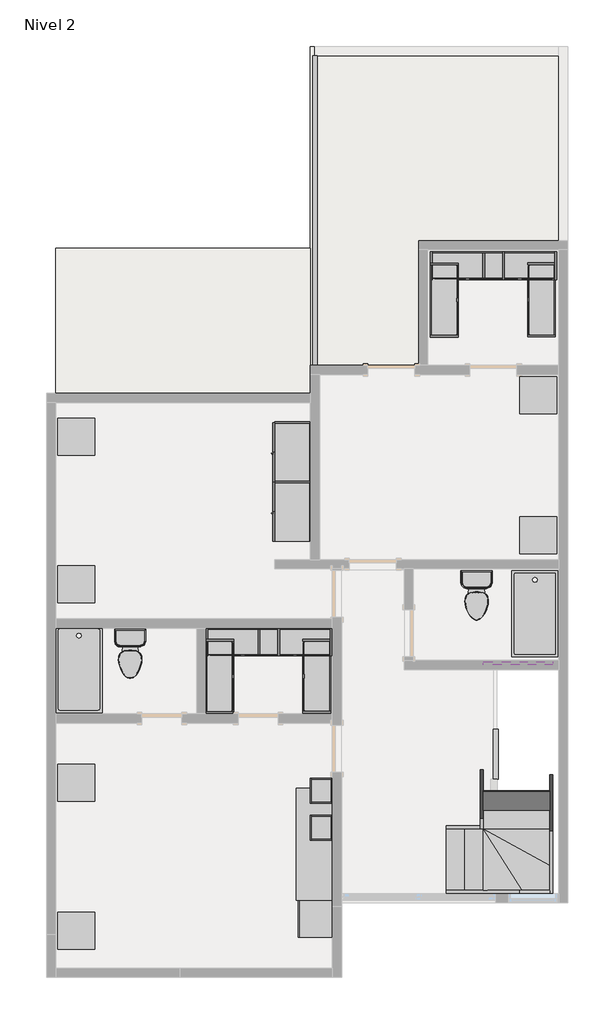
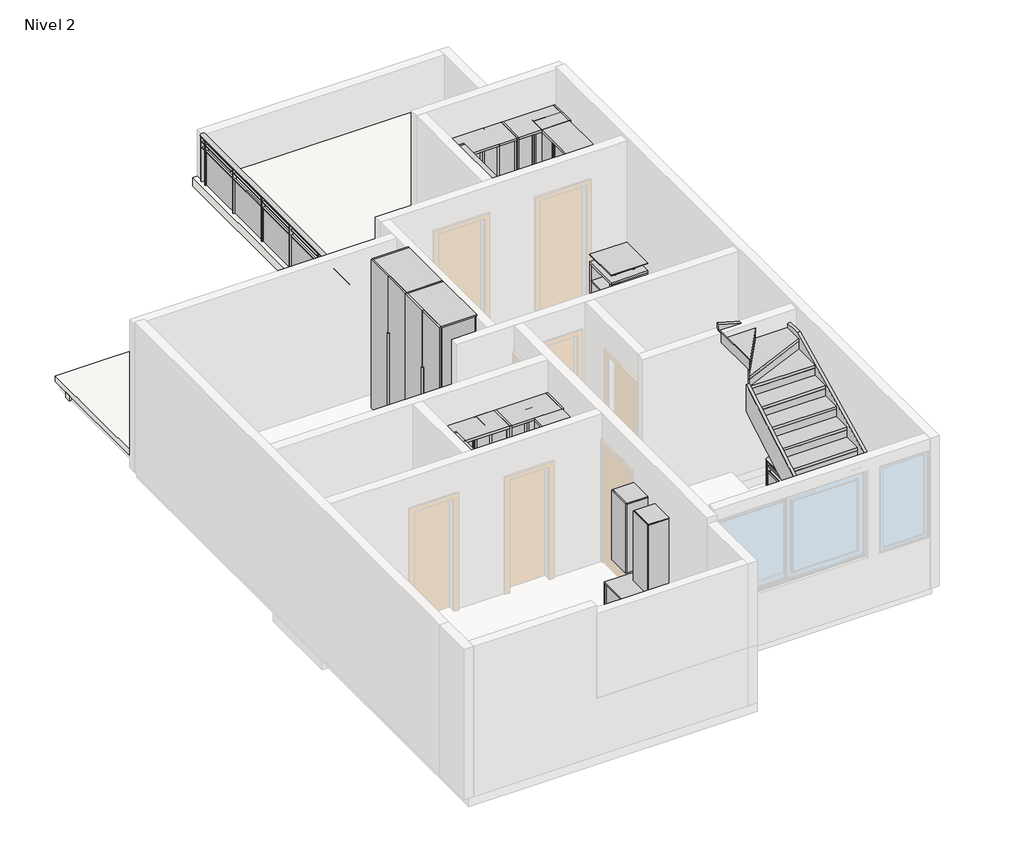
# One storey, part 2 of 2: 17 furniture elements, 10 slabs, 5 members, 4 flow terminals, 2 railings, 1 stair flight.
"""IFC4 building model written with IfcOpenShell, lengths in millimetres."""

from ifc_helpers import new_model, si_unit, point, frame, origin, place, context, project, spatial, polyline, ellipse_curve, trimmed, outline, extrude, transform, mapped, element, save
from ifc_brep_helpers import plane_surface, extruded_surface, advanced_brep
from components import flow_terminal_75_x_1_4_3fb2c740, ada_tank_toilet_4266_toilet_domestic_3d_e97a8d24, ada_tank_toilet_4266_toilet_domestic_3d_4660e8f3, furniture_89622b55, furniture_73a381e0, furniture_1200mm_x_450mm_012c86cd, bed_table_10474_bed_table_10474_d9c024c5, textiles_6b36da33, stair_flight_df50b853

model = new_model("IFC4")

# Units and contexts
model_context = context("Model", 3, world=origin())
ifc_project = project(units=[si_unit("LENGTHUNIT", "METRE", prefix="MILLI")], contexts=[model_context])

# Site, building, storey
site = spatial("IfcSite", under=ifc_project)
building = spatial("IfcBuilding", under=site)
storey = spatial("IfcBuildingStorey", under=building, Name="Nivel 2", Elevation=2800.0)

# Flow terminals
placement = place(None, origin())
flow_terminal_75_x_1_4_shape = flow_terminal_75_x_1_4_3fb2c740(model_context)
element("IfcFlowTerminal", 1, ObjectType="Cubeta de ducha - Desagüe axial : .75 x 1.4", at=placement, inside=storey, context=model_context, shape_type="MappedRepresentation", body=[
    mapped(flow_terminal_75_x_1_4_shape, transform((-9370.5352198, 3050.2742772, 2800.0), x_axis=(-1.0, 0.0, 0.0), y_axis=(0.0, -1.0, 0.0), z_axis=(0.0, 0.0, 1.0))),
])
element("IfcFlowTerminal", 2, ObjectType="Cubeta de ducha - Desagüe axial : .75 x 1.4", at=placement, inside=storey, context=model_context, shape_type="MappedRepresentation", body=[
    mapped(flow_terminal_75_x_1_4_shape, transform((-1982.5352198, 3954.2742772, 2800.0), x_axis=(-1.0, 0.0, 0.0), y_axis=(0.0, -1.0, 0.0), z_axis=(0.0, 0.0, 1.0))),
])
ada_tank_toilet_4266_toilet_domestic_3d_shape = ada_tank_toilet_4266_toilet_domestic_3d_e97a8d24(model_context)
ada_tank_toilet_4266_toilet_domestic_3d_2_shape = ada_tank_toilet_4266_toilet_domestic_3d_4660e8f3(model_context)
element("IfcFlowTerminal", 3, ObjectType="ADA_Tank_Toilet_4266 : Toilet-Domestic-3D", at=placement, inside=storey, context=model_context, shape_type="MappedRepresentation", body=[
    mapped(ada_tank_toilet_4266_toilet_domestic_3d_shape, transform((-8539.2438577, 3211.2742772, 2800.0), x_axis=(-1.0, 0.0, 0.0), y_axis=(0.0, -1.0, 0.0), z_axis=(0.0, 0.0, 1.0))),
    mapped(ada_tank_toilet_4266_toilet_domestic_3d_2_shape, transform((-8539.2438577, 3211.2742772, 2800.0), x_axis=(-1.0, 0.0, 0.0), y_axis=(0.0, -1.0, 0.0), z_axis=(0.0, 0.0, 1.0))),
])
element("IfcFlowTerminal", 4, ObjectType="ADA_Tank_Toilet_4266 : Toilet-Domestic-3D", at=placement, inside=storey, context=model_context, shape_type="MappedRepresentation", body=[
    mapped(ada_tank_toilet_4266_toilet_domestic_3d_shape, transform((-2925.1391925, 4157.4420217, 2800.0), x_axis=(-1.0, 0.0, 0.0), y_axis=(0.0, -1.0, 0.0), z_axis=(0.0, 0.0, 1.0))),
    mapped(ada_tank_toilet_4266_toilet_domestic_3d_2_shape, transform((-2925.1391925, 4157.4420217, 2800.0), x_axis=(-1.0, 0.0, 0.0), y_axis=(0.0, -1.0, 0.0), z_axis=(0.0, 0.0, 1.0))),
])

# Furniture
furniture_shape = furniture_89622b55(model_context)
element("IfcFurniture", 5, ObjectType="T70 - 100%- ARMADIO UNDERLINE L2923  : T70 - 100%- ARMADIO UNDERLINE L2923 ", at=placement, inside=storey, context=model_context, shape_type="MappedRepresentation", body=[
    mapped(furniture_shape, transform((-5904.0646571, 6810.3025695, 2800.0), x_axis=(0.0, -1.0, 0.0), y_axis=(1.0, 0.0, 0.0), z_axis=(0.0, 0.0, 1.0))),
])
furniture_2_shape = furniture_73a381e0(model_context)
element("IfcFurniture", 6, ObjectType="T70 - THESIS-Composizione 5 : T70 - THESIS-Composizione 5", at=placement, inside=storey, context=model_context, shape_type="MappedRepresentation", body=[
    mapped(furniture_2_shape, transform((-5264.5352198, 470.2742772, 2800.0), x_axis=(0.0, -1.0, 0.0), y_axis=(1.0, 0.0, 0.0), z_axis=(0.0, 0.0, 1.0))),
])
furniture_1200mm_x_450mm_shape = furniture_1200mm_x_450mm_012c86cd(model_context)
element("IfcFurniture", 7, ObjectType="Armoire monobloc Ã\xa0 rideaux : 1200mm x 450mm", at=placement, inside=storey, context=model_context, shape_type="MappedRepresentation", body=[
    mapped(furniture_1200mm_x_450mm_shape, transform((-5967.5352198, 3445.2742772, 2800.0), x_axis=(1.0, 0.0, 0.0), y_axis=(0.0, 1.0, 0.0), z_axis=(0.0, 0.0, 1.0))),
])
element("IfcFurniture", 8, ObjectType="Armoire monobloc Ã\xa0 rideaux : 1200mm x 450mm", at=placement, inside=storey, context=model_context, shape_type="MappedRepresentation", body=[
    mapped(furniture_1200mm_x_450mm_shape, transform((-5566.5352198, 3041.2742772, 2800.0), x_axis=(0.0, -1.0, 0.0), y_axis=(1.0, 0.0, 0.0), z_axis=(0.0, 0.0, 1.0))),
])
element("IfcFurniture", 9, ObjectType="Armoire monobloc Ã\xa0 rideaux : 1200mm x 450mm", at=placement, inside=storey, context=model_context, shape_type="MappedRepresentation", body=[
    mapped(furniture_1200mm_x_450mm_shape, transform((-7039.5352198, 2837.8939449, 2800.0), x_axis=(0.0, 1.0, 0.0), y_axis=(-1.0, 0.0, 0.0), z_axis=(0.0, 0.0, 1.0))),
])
element("IfcFurniture", 10, ObjectType="Armoire monobloc Ã\xa0 rideaux : 1200mm x 450mm", at=placement, inside=storey, context=model_context, shape_type="MappedRepresentation", body=[
    mapped(furniture_1200mm_x_450mm_shape, transform((-6814.5352198, 3445.2742772, 2800.0), x_axis=(1.0, 0.0, 0.0), y_axis=(0.0, 1.0, 0.0), z_axis=(0.0, 0.0, 1.0))),
])
element("IfcFurniture", 11, ObjectType="Armoire monobloc Ã\xa0 rideaux : 1200mm x 450mm", at=placement, inside=storey, context=model_context, shape_type="MappedRepresentation", body=[
    mapped(furniture_1200mm_x_450mm_shape, transform((-2326.5352198, 9544.6804136, 2800.0), x_axis=(1.0, 0.0, 0.0), y_axis=(0.0, 1.0, 0.0), z_axis=(0.0, 0.0, 1.0))),
])
element("IfcFurniture", 12, ObjectType="Armoire monobloc Ã\xa0 rideaux : 1200mm x 450mm", at=placement, inside=storey, context=model_context, shape_type="MappedRepresentation", body=[
    mapped(furniture_1200mm_x_450mm_shape, transform((-1925.5352198, 9140.6804136, 2800.0), x_axis=(0.0, -1.0, 0.0), y_axis=(1.0, 0.0, 0.0), z_axis=(0.0, 0.0, 1.0))),
])
element("IfcFurniture", 13, ObjectType="Armoire monobloc Ã\xa0 rideaux : 1200mm x 450mm", at=placement, inside=storey, context=model_context, shape_type="MappedRepresentation", body=[
    mapped(furniture_1200mm_x_450mm_shape, transform((-3398.5352198, 8937.3000814, 2800.0), x_axis=(0.0, 1.0, 0.0), y_axis=(-1.0, 0.0, 0.0), z_axis=(0.0, 0.0, 1.0))),
])
element("IfcFurniture", 14, ObjectType="Armoire monobloc Ã\xa0 rideaux : 1200mm x 450mm", at=placement, inside=storey, context=model_context, shape_type="MappedRepresentation", body=[
    mapped(furniture_1200mm_x_450mm_shape, transform((-3173.5352198, 9544.6804136, 2800.0), x_axis=(1.0, 0.0, 0.0), y_axis=(0.0, 1.0, 0.0), z_axis=(0.0, 0.0, 1.0))),
])
bed_table_10474_bed_table_10474_shape = bed_table_10474_bed_table_10474_d9c024c5(model_context)
element("IfcFurniture", 15, ObjectType="Bed_Table_10474 : Bed_Table_10474", at=placement, inside=storey, context=model_context, shape_type="MappedRepresentation", body=[
    mapped(bed_table_10474_bed_table_10474_shape, transform((-9414.5352198, 1214.2742772, 2800.0), x_axis=(0.0, 1.0, 0.0), y_axis=(-1.0, 0.0, 0.0), z_axis=(0.0, 0.0, 1.0))),
])
element("IfcFurniture", 16, ObjectType="Bed_Table_10474 : Bed_Table_10474", at=placement, inside=storey, context=model_context, shape_type="MappedRepresentation", body=[
    mapped(bed_table_10474_bed_table_10474_shape, transform((-9414.5352198, -1180.7257228, 2800.0), x_axis=(0.0, 1.0, 0.0), y_axis=(-1.0, 0.0, 0.0), z_axis=(0.0, 0.0, 1.0))),
])
element("IfcFurniture", 17, ObjectType="Bed_Table_10474 : Bed_Table_10474", at=placement, inside=storey, context=model_context, shape_type="MappedRepresentation", body=[
    mapped(bed_table_10474_bed_table_10474_shape, transform((-9414.5352198, 6825.2742772, 2800.0), x_axis=(0.0, 1.0, 0.0), y_axis=(-1.0, 0.0, 0.0), z_axis=(0.0, 0.0, 1.0))),
])
element("IfcFurniture", 18, ObjectType="Bed_Table_10474 : Bed_Table_10474", at=placement, inside=storey, context=model_context, shape_type="MappedRepresentation", body=[
    mapped(bed_table_10474_bed_table_10474_shape, transform((-9414.5352198, 4430.2742772, 2800.0), x_axis=(0.0, 1.0, 0.0), y_axis=(-1.0, 0.0, 0.0), z_axis=(0.0, 0.0, 1.0))),
])
element("IfcFurniture", 19, ObjectType="Bed_Table_10474 : Bed_Table_10474", at=placement, inside=storey, context=model_context, shape_type="MappedRepresentation", body=[
    mapped(bed_table_10474_bed_table_10474_shape, transform((-1925.5352198, 7495.2742772, 2800.0), x_axis=(0.0, 1.0, 0.0), y_axis=(-1.0, 0.0, 0.0), z_axis=(0.0, 0.0, 1.0))),
])
element("IfcFurniture", 20, ObjectType="Bed_Table_10474 : Bed_Table_10474", at=placement, inside=storey, context=model_context, shape_type="MappedRepresentation", body=[
    mapped(bed_table_10474_bed_table_10474_shape, transform((-1925.5352198, 5223.2742772, 2800.0), x_axis=(0.0, 1.0, 0.0), y_axis=(-1.0, 0.0, 0.0), z_axis=(0.0, 0.0, 1.0))),
])
textiles_shape = textiles_6b36da33(model_context)
element("IfcFurniture", 21, ObjectType="Bolia%20-%20Bossa%20Rug%20Diameter%20200%20cm : Textiles", at=placement, inside=storey, context=model_context, shape_type="MappedRepresentation", body=[
    mapped(textiles_shape, transform((-3588.4013116, 179.4823674, 2800.0), x_axis=(1.0, 0.0, 0.0), y_axis=(0.0, 1.0, 0.0), z_axis=(0.0, 0.0, 1.0))),
])

# Members
element("IfcMember", 22, ObjectType="Zanca - Anchura 50 mm", at=placement, inside=storey, context=model_context, shape_type="SweptSolid", body=[
    extrude(outline(polyline([(3032.1342498, -3414.2417154), (2800.0, -3414.2417154), (2800.0, -3018.3322013), (2889.8861168, -2864.2417154), (3352.9675831, -2864.2417154), (3032.1342498, -3414.2417154)])), frame((0.0, 470.2742772, 0.0), z_axis=(0.0, 1.0, 0.0), x_axis=(0.0, 0.0, 1.0)), (0.0, 0.0, 1.0), 50.0),
])
element("IfcMember", 23, ObjectType="Zanca - Anchura 50 mm", at=placement, inside=storey, context=model_context, shape_type="SweptSolid", body=[
    extrude(outline(polyline([(470.2742772, 3444.0527835), (470.2742772, 3907.1342498), (2270.2742772, 4957.1342498), (2270.2742772, 4494.0527835), (470.2742772, 3444.0527835)])), frame((-2864.2417154, 0.0, 0.0), z_axis=(1.0, 0.0, 0.0), x_axis=(0.0, 1.0, 0.0)), (0.0, 0.0, 1.0), 50.0),
])
element("IfcMember", 24, ObjectType="Zanca - Anchura 50 mm", at=placement, inside=storey, context=model_context, shape_type="SweptSolid", body=[
    extrude(outline(polyline([(3074.0426266, -3414.2417154), (2800.0, -3414.2417154), (2800.0, -3008.2465568), (3280.2318226, -1739.2417154), (3523.996047, -1739.2417154), (3523.996047, -2225.247063), (3074.0426266, -3414.2417154)])), frame((0.0, -579.7257228, 0.0), z_axis=(0.0, 1.0, 0.0), x_axis=(0.0, 0.0, 1.0)), (0.0, 0.0, 1.0), 50.0),
])
element("IfcMember", 25, ObjectType="Zanca - Anchura 50 mm", at=placement, inside=storey, context=model_context, shape_type="SweptSolid", body=[
    extrude(outline(polyline([(-579.7257228, 3280.2318226), (-579.7257228, 3499.4535254), (2779.1084064, 5148.1387109), (3125.2742772, 5148.1387109), (3125.2742772, 4872.4654831), (-118.5522627, 3280.2318226), (-579.7257228, 3280.2318226)])), frame((-1739.2417154, 0.0, 0.0), z_axis=(1.0, 0.0, 0.0), x_axis=(0.0, 1.0, 0.0)), (0.0, 0.0, 1.0), 50.0),
])
element("IfcMember", 26, ObjectType="Zanca - Anchura 50 mm", at=placement, inside=storey, context=model_context, shape_type="SweptSolid", body=[
    extrude(outline(polyline([(4872.4654831, -1689.2417154), (5133.7965062, -1689.2417154), (5456.4961107, -2814.2417154), (5040.3654517, -2814.2417154), (4872.4654831, -2228.9064311), (4872.4654831, -1689.2417154)])), frame((0.0, 3125.2742772, 0.0), z_axis=(0.0, 1.0, 0.0), x_axis=(0.0, 0.0, 1.0)), (0.0, 0.0, 1.0), 50.0),
])

# Railings
element("IfcRailing", 27, ObjectType="Panel de vidrio - Relleno inferior", at=placement, inside=storey, context=model_context, shape_type="SolidModel", body=[
    advanced_brep(
    [(-2655.1444547, 1268.5126589, 3700.0), (-2575.1444547, 1268.5126589, 3700.0), (-2655.1444547, 2080.2742772, 3700.0), (-2575.1444547, 2080.2742772, 3700.0)],
    [
        (0, 1, ellipse_curve(frame((-2615.1444547, 1268.5126589, 3700.0), z_axis=(0.0, -1.0, 0.0), x_axis=(1.0, 0.0, 0.0)), 40.0, 30.0)),
        (1, 0, ellipse_curve(frame((-2615.1444547, 1268.5126589, 3700.0), z_axis=(0.0, -1.0, 0.0), x_axis=(1.0, 0.0, 0.0)), 40.0, 30.0)),
        (2, 3, ellipse_curve(frame((-2615.1444547, 2080.2742772, 3700.0), z_axis=(0.0, 1.0, 0.0), x_axis=(1.0, 0.0, 0.0)), 40.0, 30.0)),
        (3, 2, ellipse_curve(frame((-2615.1444547, 2080.2742772, 3700.0), z_axis=(0.0, 1.0, 0.0), x_axis=(1.0, 0.0, 0.0)), 40.0, 30.0)),
        (0, 2),
        (3, 1),
    ],
    [
        plane_surface(frame((-2615.1444547, 1268.5126589, 3700.0), z_axis=(0.0, -1.0, 0.0), x_axis=(0.0, 0.0, 1.0))),
        plane_surface(frame((-2615.1444547, 2080.2742772, 3700.0), z_axis=(0.0, 1.0, 0.0), x_axis=(0.0, 0.0, 1.0))),
        extruded_surface(trimmed(ellipse_curve(frame((-2615.1444547, 2080.2742772, 3700.0), z_axis=(0.0, -1.0, 0.0), x_axis=(1.0, 0.0, 0.0)), 40.0, 30.0), [point((-2655.1444547, 2080.2742772, 3700.0))], [point((-2575.1444547, 2080.2742772, 3700.0))], True, "CARTESIAN"), (0.0, -811.7616183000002, 0.0), 811.7616183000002),
        extruded_surface(trimmed(ellipse_curve(frame((-2615.1444547, 2080.2742772, 3700.0), z_axis=(0.0, -1.0, 0.0), x_axis=(1.0, 0.0, 0.0)), 40.0, 30.0), [point((-2575.1444547, 2080.2742772, 3700.0))], [point((-2655.1444547, 2080.2742772, 3700.0))], True, "CARTESIAN"), (0.0, -811.7616183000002, 0.0), 811.7616183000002),
    ],
    [
        (0, [[1, 2]]),
        (1, [[3, 4]]),
        (2, [[-1, 5, -4, 6]]),
        (3, [[-2, -6, -3, -5]]),
    ],
),
    extrude(outline(polyline([(-2604.5352198, 1268.5126589), (-2624.5352198, 1268.5126589), (-2624.5352198, 2080.2742772), (-2604.5352198, 2080.2742772), (-2604.5352198, 1268.5126589)])), frame((0.0, 0.0, 3580.0), z_axis=(0.0, 0.0, 1.0), x_axis=(1.0, 0.0, 0.0)), (0.0, 0.0, 1.0), 20.0),
    extrude(outline(polyline([(-2604.5352198, 1268.5126589), (-2624.5352198, 1268.5126589), (-2624.5352198, 2080.2742772), (-2604.5352198, 2080.2742772), (-2604.5352198, 1268.5126589)])), frame((0.0, 0.0, 3480.0), z_axis=(0.0, 0.0, 1.0), x_axis=(1.0, 0.0, 0.0)), (0.0, 0.0, 1.0), 20.0),
    extrude(outline(polyline([(-2589.5352198, 2068.3934681), (-2639.5352198, 2068.3934681), (-2639.5352198, 2080.3934681), (-2589.5352198, 2080.3934681), (-2589.5352198, 2068.3934681)])), frame((0.0, 0.0, 2800.0), z_axis=(0.0, 0.0, 1.0), x_axis=(1.0, 0.0, 0.0)), (0.0, 0.0, 1.0), 869.8465326),
    extrude(outline(polyline([(-2616.2600299, 1274.3934681), (-2621.2600299, 1274.3934681), (-2621.2600299, 2074.3934681), (-2616.2600299, 2074.3934681), (-2616.2600299, 1274.3934681)])), frame((0.0, 0.0, 2900.0), z_axis=(0.0, 0.0, 1.0), x_axis=(1.0, 0.0, 0.0)), (0.0, 0.0, 1.0), 580.0),
    extrude(outline(polyline([(-2589.5352198, 1268.3934681), (-2639.5352198, 1268.3934681), (-2639.5352198, 1280.3934681), (-2589.5352198, 1280.3934681), (-2589.5352198, 1268.3934681)])), frame((0.0, 0.0, 2800.0), z_axis=(0.0, 0.0, 1.0), x_axis=(1.0, 0.0, 0.0)), (0.0, 0.0, 1.0), 869.8465326),
    extrude(outline(polyline([(-2589.5352198, 2072.2742772), (-2639.5352198, 2072.2742772), (-2639.5352198, 2084.2742772), (-2589.5352198, 2084.2742772), (-2589.5352198, 2072.2742772)])), frame((0.0, 0.0, 2800.0), z_axis=(0.0, 0.0, 1.0), x_axis=(1.0, 0.0, 0.0)), (0.0, 0.0, 1.0), 869.8465326),
    extrude(outline(polyline([(-2589.5352198, 1264.5126589), (-2639.5352198, 1264.5126589), (-2639.5352198, 1276.5126589), (-2589.5352198, 1276.5126589), (-2589.5352198, 1264.5126589)])), frame((0.0, 0.0, 2800.0), z_axis=(0.0, 0.0, 1.0), x_axis=(1.0, 0.0, 0.0)), (0.0, 0.0, 1.0), 869.8465326),
])
element("IfcRailing", 28, ObjectType="Panel de vidrio - Relleno inferior", at=placement, inside=storey, context=model_context, shape_type="SolidModel", body=[
    advanced_brep(
    [(-5583.925985, 7980.2742772, 3700.0), (-5503.925985, 7980.2742772, 3700.0), (-5583.925985, 12995.2742772, 3700.0), (-5503.925985, 12995.2742772, 3700.0)],
    [
        (0, 1, ellipse_curve(frame((-5543.925985, 7980.2742772, 3700.0), z_axis=(0.0, -1.0, 0.0), x_axis=(1.0, 0.0, 0.0)), 40.0, 30.0)),
        (1, 0, ellipse_curve(frame((-5543.925985, 7980.2742772, 3700.0), z_axis=(0.0, -1.0, 0.0), x_axis=(1.0, 0.0, 0.0)), 40.0, 30.0)),
        (2, 3, ellipse_curve(frame((-5543.925985, 12995.2742772, 3700.0), z_axis=(0.0, 1.0, 0.0), x_axis=(1.0, 0.0, 0.0)), 40.0, 30.0)),
        (3, 2, ellipse_curve(frame((-5543.925985, 12995.2742772, 3700.0), z_axis=(0.0, 1.0, 0.0), x_axis=(1.0, 0.0, 0.0)), 40.0, 30.0)),
        (0, 2),
        (3, 1),
    ],
    [
        plane_surface(frame((-5543.925985, 7980.2742772, 3700.0), z_axis=(0.0, -1.0, 0.0), x_axis=(0.0, 0.0, 1.0))),
        plane_surface(frame((-5543.925985, 12995.2742772, 3700.0), z_axis=(0.0, 1.0, 0.0), x_axis=(0.0, 0.0, 1.0))),
        extruded_surface(trimmed(ellipse_curve(frame((-5543.925985, 12995.2742772, 3700.0), z_axis=(0.0, -1.0, 0.0), x_axis=(1.0, 0.0, 0.0)), 40.0, 30.0), [point((-5583.925985, 12995.2742772, 3700.0))], [point((-5503.925985, 12995.2742772, 3700.0))], True, "CARTESIAN"), (0.0, -5015.0, 0.0), 5015.0),
        extruded_surface(trimmed(ellipse_curve(frame((-5543.925985, 12995.2742772, 3700.0), z_axis=(0.0, -1.0, 0.0), x_axis=(1.0, 0.0, 0.0)), 40.0, 30.0), [point((-5503.925985, 12995.2742772, 3700.0))], [point((-5583.925985, 12995.2742772, 3700.0))], True, "CARTESIAN"), (0.0, -5015.0, 0.0), 5015.0),
    ],
    [
        (0, [[1, 2]]),
        (1, [[3, 4]]),
        (2, [[-1, 5, -4, 6]]),
        (3, [[-2, -6, -3, -5]]),
    ],
),
    extrude(outline(polyline([(-5534.5352198, 7980.2742772), (-5554.5352198, 7980.2742772), (-5554.5352198, 12995.2742772), (-5534.5352198, 12995.2742772), (-5534.5352198, 7980.2742772)])), frame((0.0, 0.0, 3580.0), z_axis=(0.0, 0.0, 1.0), x_axis=(1.0, 0.0, 0.0)), (0.0, 0.0, 1.0), 20.0),
    extrude(outline(polyline([(-5534.5352198, 7980.2742772), (-5554.5352198, 7980.2742772), (-5554.5352198, 12995.2742772), (-5534.5352198, 12995.2742772), (-5534.5352198, 7980.2742772)])), frame((0.0, 0.0, 3480.0), z_axis=(0.0, 0.0, 1.0), x_axis=(1.0, 0.0, 0.0)), (0.0, 0.0, 1.0), 20.0),
    extrude(outline(polyline([(-5569.5352198, 12881.7742772), (-5569.5352198, 12893.7742772), (-5519.5352198, 12893.7742772), (-5519.5352198, 12881.7742772), (-5569.5352198, 12881.7742772)])), frame((0.0, 0.0, 2800.0), z_axis=(0.0, 0.0, 1.0), x_axis=(1.0, 0.0, 0.0)), (0.0, 0.0, 1.0), 869.8465326),
    extrude(outline(polyline([(-5542.8104097, 12087.7742772), (-5542.8104097, 12887.7742772), (-5537.8104097, 12887.7742772), (-5537.8104097, 12087.7742772), (-5542.8104097, 12087.7742772)])), frame((0.0, 0.0, 2900.0), z_axis=(0.0, 0.0, 1.0), x_axis=(1.0, 0.0, 0.0)), (0.0, 0.0, 1.0), 580.0),
    extrude(outline(polyline([(-5569.5352198, 12081.7742772), (-5569.5352198, 12093.7742772), (-5519.5352198, 12093.7742772), (-5519.5352198, 12081.7742772), (-5569.5352198, 12081.7742772)])), frame((0.0, 0.0, 2800.0), z_axis=(0.0, 0.0, 1.0), x_axis=(1.0, 0.0, 0.0)), (0.0, 0.0, 1.0), 869.8465326),
    extrude(outline(polyline([(-5542.8104097, 11287.7742772), (-5542.8104097, 12087.7742772), (-5537.8104097, 12087.7742772), (-5537.8104097, 11287.7742772), (-5542.8104097, 11287.7742772)])), frame((0.0, 0.0, 2900.0), z_axis=(0.0, 0.0, 1.0), x_axis=(1.0, 0.0, 0.0)), (0.0, 0.0, 1.0), 580.0),
    extrude(outline(polyline([(-5569.5352198, 11281.7742772), (-5569.5352198, 11293.7742772), (-5519.5352198, 11293.7742772), (-5519.5352198, 11281.7742772), (-5569.5352198, 11281.7742772)])), frame((0.0, 0.0, 2800.0), z_axis=(0.0, 0.0, 1.0), x_axis=(1.0, 0.0, 0.0)), (0.0, 0.0, 1.0), 869.8465326),
    extrude(outline(polyline([(-5542.8104097, 10487.7742772), (-5542.8104097, 11287.7742772), (-5537.8104097, 11287.7742772), (-5537.8104097, 10487.7742772), (-5542.8104097, 10487.7742772)])), frame((0.0, 0.0, 2900.0), z_axis=(0.0, 0.0, 1.0), x_axis=(1.0, 0.0, 0.0)), (0.0, 0.0, 1.0), 580.0),
    extrude(outline(polyline([(-5569.5352198, 10481.7742772), (-5569.5352198, 10493.7742772), (-5519.5352198, 10493.7742772), (-5519.5352198, 10481.7742772), (-5569.5352198, 10481.7742772)])), frame((0.0, 0.0, 2800.0), z_axis=(0.0, 0.0, 1.0), x_axis=(1.0, 0.0, 0.0)), (0.0, 0.0, 1.0), 869.8465326),
    extrude(outline(polyline([(-5542.8104097, 9687.7742772), (-5542.8104097, 10487.7742772), (-5537.8104097, 10487.7742772), (-5537.8104097, 9687.7742772), (-5542.8104097, 9687.7742772)])), frame((0.0, 0.0, 2900.0), z_axis=(0.0, 0.0, 1.0), x_axis=(1.0, 0.0, 0.0)), (0.0, 0.0, 1.0), 580.0),
    extrude(outline(polyline([(-5569.5352198, 9681.7742772), (-5569.5352198, 9693.7742772), (-5519.5352198, 9693.7742772), (-5519.5352198, 9681.7742772), (-5569.5352198, 9681.7742772)])), frame((0.0, 0.0, 2800.0), z_axis=(0.0, 0.0, 1.0), x_axis=(1.0, 0.0, 0.0)), (0.0, 0.0, 1.0), 869.8465326),
    extrude(outline(polyline([(-5542.8104097, 8887.7742772), (-5542.8104097, 9687.7742772), (-5537.8104097, 9687.7742772), (-5537.8104097, 8887.7742772), (-5542.8104097, 8887.7742772)])), frame((0.0, 0.0, 2900.0), z_axis=(0.0, 0.0, 1.0), x_axis=(1.0, 0.0, 0.0)), (0.0, 0.0, 1.0), 580.0),
    extrude(outline(polyline([(-5569.5352198, 8881.7742772), (-5569.5352198, 8893.7742772), (-5519.5352198, 8893.7742772), (-5519.5352198, 8881.7742772), (-5569.5352198, 8881.7742772)])), frame((0.0, 0.0, 2800.0), z_axis=(0.0, 0.0, 1.0), x_axis=(1.0, 0.0, 0.0)), (0.0, 0.0, 1.0), 869.8465326),
    extrude(outline(polyline([(-5542.8104097, 8087.7742772), (-5542.8104097, 8887.7742772), (-5537.8104097, 8887.7742772), (-5537.8104097, 8087.7742772), (-5542.8104097, 8087.7742772)])), frame((0.0, 0.0, 2900.0), z_axis=(0.0, 0.0, 1.0), x_axis=(1.0, 0.0, 0.0)), (0.0, 0.0, 1.0), 580.0),
    extrude(outline(polyline([(-5569.5352198, 8081.7742772), (-5569.5352198, 8093.7742772), (-5519.5352198, 8093.7742772), (-5519.5352198, 8081.7742772), (-5569.5352198, 8081.7742772)])), frame((0.0, 0.0, 2800.0), z_axis=(0.0, 0.0, 1.0), x_axis=(1.0, 0.0, 0.0)), (0.0, 0.0, 1.0), 869.8465326),
    extrude(outline(polyline([(-5569.5352198, 12987.2742772), (-5569.5352198, 12999.2742772), (-5519.5352198, 12999.2742772), (-5519.5352198, 12987.2742772), (-5569.5352198, 12987.2742772)])), frame((0.0, 0.0, 2800.0), z_axis=(0.0, 0.0, 1.0), x_axis=(1.0, 0.0, 0.0)), (0.0, 0.0, 1.0), 869.8465326),
    extrude(outline(polyline([(-5569.5352198, 7976.2742772), (-5569.5352198, 7988.2742772), (-5519.5352198, 7988.2742772), (-5519.5352198, 7976.2742772), (-5569.5352198, 7976.2742772)])), frame((0.0, 0.0, 2800.0), z_axis=(0.0, 0.0, 1.0), x_axis=(1.0, 0.0, 0.0)), (0.0, 0.0, 1.0), 869.8465326),
])

# Slabs
element("IfcSlab", 29, ObjectType="polines", at=placement, inside=storey, context=model_context, shape_type="SweptSolid", body=[
    extrude(outline(polyline([(-5708.0352198, 7523.2742772), (-5708.0352198, 9805.2742772), (-5638.0352198, 9805.2742772), (-5638.0352198, 7523.2742772), (-5708.0352198, 7523.2742772)])), frame((0.0, 0.0, 2700.0), z_axis=(0.0, 0.0, 1.0), x_axis=(1.0, 0.0, 0.0)), (0.0, 0.0, 1.0), 100.0),
])
element("IfcSlab", 30, ObjectType="polines", at=placement, inside=storey, context=model_context, shape_type="SweptSolid", body=[
    extrude(outline(polyline([(-6208.0352198, 7523.2742772), (-6208.0352198, 9805.2742772), (-6138.0352198, 9805.2742772), (-6138.0352198, 7523.2742772), (-6208.0352198, 7523.2742772)])), frame((0.0, 0.0, 2700.0), z_axis=(0.0, 0.0, 1.0), x_axis=(1.0, 0.0, 0.0)), (0.0, 0.0, 1.0), 100.0),
])
element("IfcSlab", 31, ObjectType="polines", at=placement, inside=storey, context=model_context, shape_type="SweptSolid", body=[
    extrude(outline(polyline([(-6208.0352198, 7523.2742772), (-6208.0352198, 9805.2742772), (-6138.0352198, 9805.2742772), (-6138.0352198, 7523.2742772), (-6208.0352198, 7523.2742772)])), frame((0.0, 0.0, 2700.0), z_axis=(0.0, 0.0, 1.0), x_axis=(1.0, 0.0, 0.0)), (0.0, 0.0, 1.0), 100.0),
])
element("IfcSlab", 32, ObjectType="polines", at=placement, inside=storey, context=model_context, shape_type="SweptSolid", body=[
    extrude(outline(polyline([(-6708.0352198, 7523.2742772), (-6708.0352198, 9805.2742772), (-6638.0352198, 9805.2742772), (-6638.0352198, 7523.2742772), (-6708.0352198, 7523.2742772)])), frame((0.0, 0.0, 2700.0), z_axis=(0.0, 0.0, 1.0), x_axis=(1.0, 0.0, 0.0)), (0.0, 0.0, 1.0), 100.0),
])
element("IfcSlab", 33, ObjectType="polines", at=placement, inside=storey, context=model_context, shape_type="SweptSolid", body=[
    extrude(outline(polyline([(-7208.0352198, 7523.2742772), (-7208.0352198, 9805.2742772), (-7138.0352198, 9805.2742772), (-7138.0352198, 7523.2742772), (-7208.0352198, 7523.2742772)])), frame((0.0, 0.0, 2700.0), z_axis=(0.0, 0.0, 1.0), x_axis=(1.0, 0.0, 0.0)), (0.0, 0.0, 1.0), 100.0),
])
element("IfcSlab", 34, ObjectType="polines", at=placement, inside=storey, context=model_context, shape_type="SweptSolid", body=[
    extrude(outline(polyline([(-7708.0352198, 7523.2742772), (-7708.0352198, 9805.2742772), (-7638.0352198, 9805.2742772), (-7638.0352198, 7523.2742772), (-7708.0352198, 7523.2742772)])), frame((0.0, 0.0, 2700.0), z_axis=(0.0, 0.0, 1.0), x_axis=(1.0, 0.0, 0.0)), (0.0, 0.0, 1.0), 100.0),
])
element("IfcSlab", 35, ObjectType="polines", at=placement, inside=storey, context=model_context, shape_type="SweptSolid", body=[
    extrude(outline(polyline([(-8708.0352198, 7523.2742772), (-8708.0352198, 9805.2742772), (-8638.0352198, 9805.2742772), (-8638.0352198, 7523.2742772), (-8708.0352198, 7523.2742772)])), frame((0.0, 0.0, 2700.0), z_axis=(0.0, 0.0, 1.0), x_axis=(1.0, 0.0, 0.0)), (0.0, 0.0, 1.0), 100.0),
])
element("IfcSlab", 36, ObjectType="polines", at=placement, inside=storey, context=model_context, shape_type="SweptSolid", body=[
    extrude(outline(polyline([(-5619.5352198, 9590.3387062), (-5619.5352198, 9490.2742772), (-9744.5352198, 9490.2742772), (-9744.5352198, 9590.3387062), (-5619.5352198, 9590.3387062)])), frame((0.0, 0.0, 2700.0), z_axis=(0.0, 0.0, 1.0), x_axis=(1.0, 0.0, 0.0)), (0.0, 0.0, 1.0), 100.0),
])
element("IfcSlab", 37, ObjectType="Genérico 150 mm", at=placement, inside=storey, context=model_context, shape_type="SweptSolid", body=[
    extrude(outline(polyline([(-5619.5352198, 7980.2742772), (-5619.5352198, 13145.2742772), (-1519.5352198, 13145.2742772), (-1519.5352198, 10000.2742772), (-3864.5352198, 10000.2742772), (-3864.5352198, 7980.2742772), (-5619.5352198, 7980.2742772)])), frame((0.0, 0.0, 2750.0), z_axis=(0.0, 0.0, 1.0), x_axis=(1.0, 0.0, 0.0)), (0.0, 0.0, 1.0), 150.0),
])
element("IfcSlab", 38, ObjectType="techo vidrio", at=placement, inside=storey, context=model_context, shape_type="SweptSolid", body=[
    extrude(outline(polyline([(-9744.5352198, 7523.2742772), (-9744.5352198, 9879.1783195), (-5619.5352198, 9879.1783195), (-5619.5352198, 7523.2742772), (-9744.5352198, 7523.2742772)])), frame((0.0, 0.0, 2800.0), z_axis=(0.0, 0.0, 1.0), x_axis=(1.0, 0.0, 0.0)), (0.0, 0.0, 1.0), 100.0),
])

# Stair flight
stair_flight_shape = stair_flight_df50b853(model_context)
element("IfcStairFlight", 39, ObjectType="Huella 50 mm Contrahuella 13 mm", at=placement, inside=storey, context=model_context, shape_type="MappedRepresentation", body=[
    mapped(stair_flight_shape, transform((0.0, 0.0, 0.0), x_axis=(1.0, 0.0, 0.0), y_axis=(0.0, 1.0, 0.0), z_axis=(0.0, 0.0, 1.0))),
])

save(model, "model.ifc")
